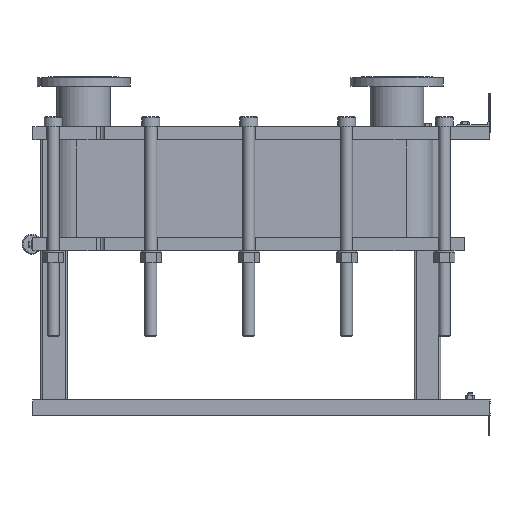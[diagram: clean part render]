
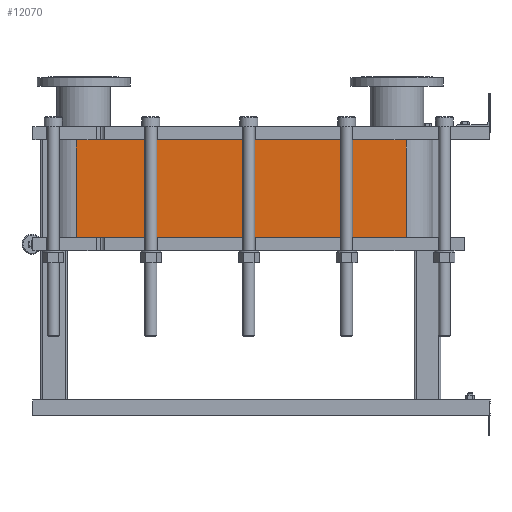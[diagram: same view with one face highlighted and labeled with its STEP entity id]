
A CAD part, left-side view. The second image highlights one B-rep face of the part: STEP entity #12070.
In plain terms, the highlighted planar face has unit normal (-1, 0, 0).
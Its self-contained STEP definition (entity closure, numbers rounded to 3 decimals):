
#1064=LINE('',#21140,#2164);
#1065=LINE('',#21144,#2165);
#1066=LINE('',#21146,#2166);
#1067=LINE('',#21147,#2167);
#2164=VECTOR('',#15790,10.);
#2165=VECTOR('',#15795,10.);
#2166=VECTOR('',#15796,10.);
#2167=VECTOR('',#15797,10.);
#3304=FACE_OUTER_BOUND('',#4091,.T.);
#4091=EDGE_LOOP('',(#9793,#9794,#9795,#9796));
#5677=VERTEX_POINT('',#21137);
#5678=VERTEX_POINT('',#21139);
#5679=VERTEX_POINT('',#21143);
#5680=VERTEX_POINT('',#21145);
#7118=EDGE_CURVE('',#5678,#5677,#1064,.T.);
#7120=EDGE_CURVE('',#5677,#5679,#1065,.T.);
#7121=EDGE_CURVE('',#5680,#5679,#1066,.T.);
#7122=EDGE_CURVE('',#5680,#5678,#1067,.T.);
#9793=ORIENTED_EDGE('',*,*,#7120,.T.);
#9794=ORIENTED_EDGE('',*,*,#7121,.F.);
#9795=ORIENTED_EDGE('',*,*,#7122,.T.);
#9796=ORIENTED_EDGE('',*,*,#7118,.T.);
#11441=PLANE('',#13191);
#12070=ADVANCED_FACE('',(#3304),#11441,.T.);
#13191=AXIS2_PLACEMENT_3D('',#21142,#15793,#15794);
#15790=DIRECTION('',(0.,0.,-1.));
#15793=DIRECTION('center_axis',(-1.,0.,0.));
#15794=DIRECTION('ref_axis',(0.,1.,0.));
#15795=DIRECTION('',(0.,-1.,0.));
#15796=DIRECTION('',(0.,0.,-1.));
#15797=DIRECTION('',(0.,1.,0.));
#21137=CARTESIAN_POINT('',(-248.152,1243.818,-293.25));
#21139=CARTESIAN_POINT('',(-248.152,1243.818,0.));
#21140=CARTESIAN_POINT('',(-248.152,1243.818,0.));
#21142=CARTESIAN_POINT('Origin',(-248.152,251.818,0.));
#21143=CARTESIAN_POINT('',(-248.152,251.818,-293.25));
#21144=CARTESIAN_POINT('',(-248.152,499.818,-293.25));
#21145=CARTESIAN_POINT('',(-248.152,251.818,0.));
#21146=CARTESIAN_POINT('',(-248.152,251.818,0.));
#21147=CARTESIAN_POINT('',(-248.152,251.818,0.));
